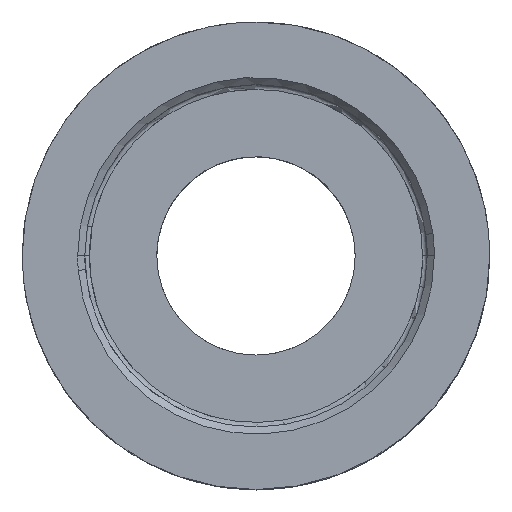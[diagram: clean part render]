
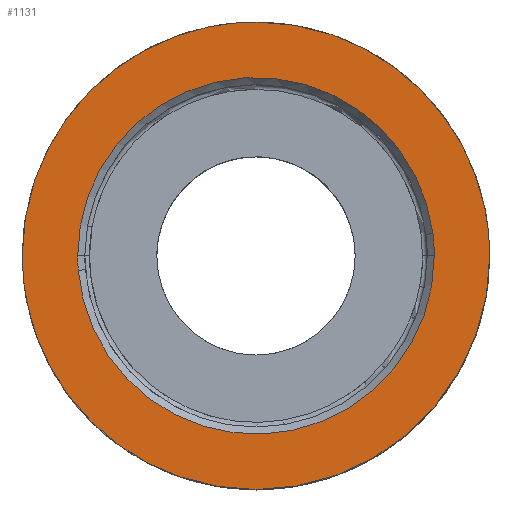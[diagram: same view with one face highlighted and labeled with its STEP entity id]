
A CAD part, top view. The second image highlights one B-rep face of the part: STEP entity #1131.
In plain terms, the highlighted planar face has unit normal (0, 0, 1).
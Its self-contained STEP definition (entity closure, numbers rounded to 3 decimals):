
#957=AXIS2_PLACEMENT_3D('Circle Axis2P3D',#955,#956,$) ;
#998=AXIS2_PLACEMENT_3D('Circle Axis2P3D',#996,#997,$) ;
#1015=AXIS2_PLACEMENT_3D('Circle Axis2P3D',#1013,#1014,$) ;
#1040=AXIS2_PLACEMENT_3D('Circle Axis2P3D',#1038,#1039,$) ;
#1053=AXIS2_PLACEMENT_3D('Plane Axis2P3D',#1050,#1051,#1052) ;
#1078=AXIS2_PLACEMENT_3D('Circle Axis2P3D',#1076,#1077,$) ;
#955=CARTESIAN_POINT('Axis2P3D Location',(0.,0.,5.4)) ;
#959=CARTESIAN_POINT('Vertex',(-7.525,-0.613,5.4)) ;
#961=CARTESIAN_POINT('Vertex',(7.55,0.,5.4)) ;
#993=CARTESIAN_POINT('Vertex',(-7.55,0.,5.4)) ;
#996=CARTESIAN_POINT('Axis2P3D Location',(0.,0.,5.4)) ;
#1013=CARTESIAN_POINT('Axis2P3D Location',(0.,0.,5.4)) ;
#1017=CARTESIAN_POINT('Vertex',(7.491,0.942,5.4)) ;
#1038=CARTESIAN_POINT('Axis2P3D Location',(0.,0.,5.4)) ;
#1050=CARTESIAN_POINT('Axis2P3D Location',(0.,0.,5.4)) ;
#1056=CARTESIAN_POINT('Control Point',(0.,-9.9,5.4)) ;
#1057=CARTESIAN_POINT('Control Point',(-0.925,-9.9,5.4)) ;
#1058=CARTESIAN_POINT('Control Point',(-1.849,-9.792,5.4)) ;
#1059=CARTESIAN_POINT('Control Point',(-2.757,-9.577,5.4)) ;
#1060=CARTESIAN_POINT('Control Point',(-4.506,-8.937,5.4)) ;
#1061=CARTESIAN_POINT('Control Point',(-6.06,-7.911,5.4)) ;
#1062=CARTESIAN_POINT('Control Point',(-6.773,-7.309,5.4)) ;
#1063=CARTESIAN_POINT('Control Point',(-8.047,-5.95,5.4)) ;
#1064=CARTESIAN_POINT('Control Point',(-8.973,-4.335,5.4)) ;
#1065=CARTESIAN_POINT('Control Point',(-9.339,-3.477,5.4)) ;
#1066=CARTESIAN_POINT('Control Point',(-9.697,-2.259,5.4)) ;
#1067=CARTESIAN_POINT('Control Point',(-9.857,-1.008,5.4)) ;
#1068=CARTESIAN_POINT('Control Point',(-9.886,-0.672,5.4)) ;
#1069=CARTESIAN_POINT('Control Point',(-9.9,-0.336,5.4)) ;
#1070=CARTESIAN_POINT('Control Point',(-9.9,0.,5.4)) ;
#1071=CARTESIAN_POINT('Vertex',(0.,-9.9,5.4)) ;
#1073=CARTESIAN_POINT('Vertex',(-9.9,0.,5.4)) ;
#1076=CARTESIAN_POINT('Axis2P3D Location',(0.,0.,5.4)) ;
#1080=CARTESIAN_POINT('Vertex',(9.9,0.,5.4)) ;
#1084=CARTESIAN_POINT('Control Point',(0.,9.9,5.4)) ;
#1085=CARTESIAN_POINT('Control Point',(0.925,9.9,5.4)) ;
#1086=CARTESIAN_POINT('Control Point',(1.849,9.792,5.4)) ;
#1087=CARTESIAN_POINT('Control Point',(2.757,9.577,5.4)) ;
#1088=CARTESIAN_POINT('Control Point',(4.506,8.937,5.4)) ;
#1089=CARTESIAN_POINT('Control Point',(6.06,7.911,5.4)) ;
#1090=CARTESIAN_POINT('Control Point',(6.773,7.309,5.4)) ;
#1091=CARTESIAN_POINT('Control Point',(8.047,5.95,5.4)) ;
#1092=CARTESIAN_POINT('Control Point',(8.973,4.335,5.4)) ;
#1093=CARTESIAN_POINT('Control Point',(9.339,3.477,5.4)) ;
#1094=CARTESIAN_POINT('Control Point',(9.697,2.259,5.4)) ;
#1095=CARTESIAN_POINT('Control Point',(9.857,1.008,5.4)) ;
#1096=CARTESIAN_POINT('Control Point',(9.886,0.672,5.4)) ;
#1097=CARTESIAN_POINT('Control Point',(9.9,0.336,5.4)) ;
#1098=CARTESIAN_POINT('Control Point',(9.9,0.,5.4)) ;
#1099=CARTESIAN_POINT('Vertex',(0.,9.9,5.4)) ;
#1103=CARTESIAN_POINT('Control Point',(-9.9,0.,5.4)) ;
#1104=CARTESIAN_POINT('Control Point',(-9.9,0.925,5.4)) ;
#1105=CARTESIAN_POINT('Control Point',(-9.792,1.849,5.4)) ;
#1106=CARTESIAN_POINT('Control Point',(-9.577,2.757,5.4)) ;
#1107=CARTESIAN_POINT('Control Point',(-8.937,4.506,5.4)) ;
#1108=CARTESIAN_POINT('Control Point',(-7.911,6.06,5.4)) ;
#1109=CARTESIAN_POINT('Control Point',(-7.309,6.773,5.4)) ;
#1110=CARTESIAN_POINT('Control Point',(-5.95,8.047,5.4)) ;
#1111=CARTESIAN_POINT('Control Point',(-4.335,8.973,5.4)) ;
#1112=CARTESIAN_POINT('Control Point',(-3.477,9.339,5.4)) ;
#1113=CARTESIAN_POINT('Control Point',(-2.259,9.697,5.4)) ;
#1114=CARTESIAN_POINT('Control Point',(-1.008,9.857,5.4)) ;
#1115=CARTESIAN_POINT('Control Point',(-0.672,9.886,5.4)) ;
#1116=CARTESIAN_POINT('Control Point',(-0.336,9.9,5.4)) ;
#1117=CARTESIAN_POINT('Control Point',(0.,9.9,5.4)) ;
#956=DIRECTION('Axis2P3D Direction',(0.,0.,1.)) ;
#997=DIRECTION('Axis2P3D Direction',(0.,0.,1.)) ;
#1014=DIRECTION('Axis2P3D Direction',(0.,0.,1.)) ;
#1039=DIRECTION('Axis2P3D Direction',(0.,0.,1.)) ;
#1051=DIRECTION('Axis2P3D Direction',(0.,0.,-1.)) ;
#1052=DIRECTION('Axis2P3D XDirection',(1.,0.,0.)) ;
#1077=DIRECTION('Axis2P3D Direction',(0.,0.,-1.)) ;
#1120=ORIENTED_EDGE('',*,*,#1075,.F.) ;
#1121=ORIENTED_EDGE('',*,*,#1082,.F.) ;
#1122=ORIENTED_EDGE('',*,*,#1101,.T.) ;
#1123=ORIENTED_EDGE('',*,*,#1118,.T.) ;
#1126=ORIENTED_EDGE('',*,*,#1019,.F.) ;
#1127=ORIENTED_EDGE('',*,*,#1042,.F.) ;
#1128=ORIENTED_EDGE('',*,*,#963,.F.) ;
#1129=ORIENTED_EDGE('',*,*,#1000,.F.) ;
#1130=FACE_BOUND('',#1125,.T.) ;
#1131=ADVANCED_FACE('\X2\96F64EF651E04F554F53\X0\',(#1124,#1130),#1054,.F.) ;
#1055=B_SPLINE_CURVE_WITH_KNOTS('',5,(#1056,#1057,#1058,#1059,#1060,#1061,#1062,#1063,#1064,#1065,#1066,#1067,#1068,#1069,#1070),.UNSPECIFIED.,.F.,.U.,(6,3,3,3,6),(0.,6.714,13.433,20.147,22.587),.UNSPECIFIED.) ;
#1083=B_SPLINE_CURVE_WITH_KNOTS('',5,(#1084,#1085,#1086,#1087,#1088,#1089,#1090,#1091,#1092,#1093,#1094,#1095,#1096,#1097,#1098),.UNSPECIFIED.,.F.,.U.,(6,3,3,3,6),(0.,6.714,13.433,20.147,22.587),.UNSPECIFIED.) ;
#1102=B_SPLINE_CURVE_WITH_KNOTS('',5,(#1103,#1104,#1105,#1106,#1107,#1108,#1109,#1110,#1111,#1112,#1113,#1114,#1115,#1116,#1117),.UNSPECIFIED.,.F.,.U.,(6,3,3,3,6),(0.,6.714,13.433,20.147,22.587),.UNSPECIFIED.) ;
#958=CIRCLE('generated circle',#957,7.55) ;
#999=CIRCLE('generated circle',#998,7.55) ;
#1016=CIRCLE('generated circle',#1015,7.55) ;
#1041=CIRCLE('generated circle',#1040,7.55) ;
#1079=CIRCLE('generated circle',#1078,9.9) ;
#963=EDGE_CURVE('',#960,#962,#958,.T.) ;
#1000=EDGE_CURVE('',#994,#960,#999,.T.) ;
#1019=EDGE_CURVE('',#1018,#994,#1016,.T.) ;
#1042=EDGE_CURVE('',#962,#1018,#1041,.T.) ;
#1075=EDGE_CURVE('',#1072,#1074,#1055,.T.) ;
#1082=EDGE_CURVE('',#1081,#1072,#1079,.T.) ;
#1101=EDGE_CURVE('',#1081,#1100,#1083,.F.) ;
#1118=EDGE_CURVE('',#1100,#1074,#1102,.F.) ;
#1119=EDGE_LOOP('',(#1120,#1121,#1122,#1123)) ;
#1125=EDGE_LOOP('',(#1126,#1127,#1128,#1129)) ;
#1124=FACE_OUTER_BOUND('',#1119,.T.) ;
#1054=PLANE('Plane',#1053) ;
#960=VERTEX_POINT('',#959) ;
#962=VERTEX_POINT('',#961) ;
#994=VERTEX_POINT('',#993) ;
#1018=VERTEX_POINT('',#1017) ;
#1072=VERTEX_POINT('',#1071) ;
#1074=VERTEX_POINT('',#1073) ;
#1081=VERTEX_POINT('',#1080) ;
#1100=VERTEX_POINT('',#1099) ;
